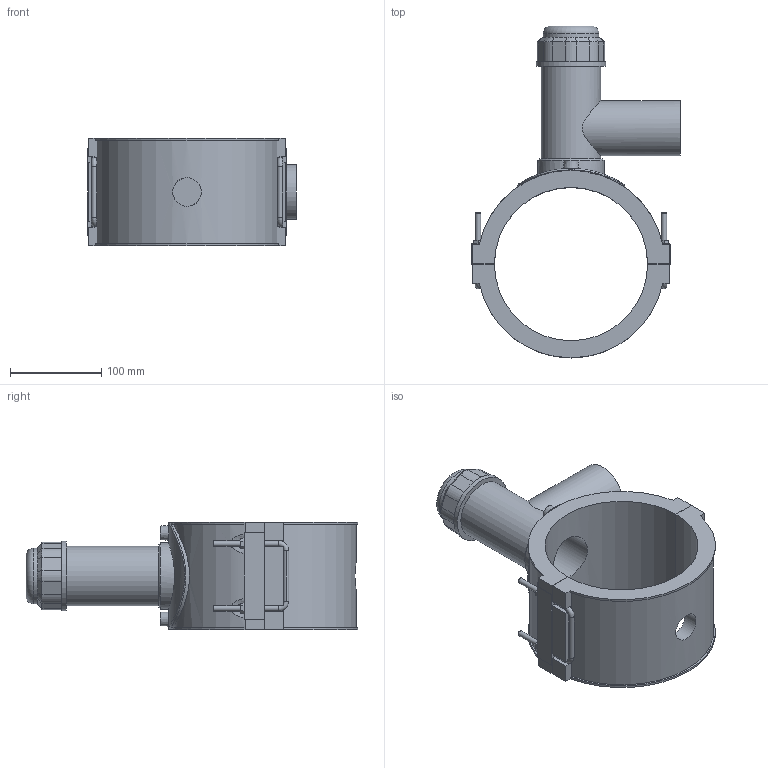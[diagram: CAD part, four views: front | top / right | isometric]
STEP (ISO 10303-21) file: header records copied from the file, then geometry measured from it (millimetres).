
FILE_DESCRIPTION(/* description */ ('PLASSON TAPPING SADDLE 6''''IPS x 2''''IPS'),/* implementation_level */ '2;1');
FILE_NAME(/* name */ 'C:\Dropbox\KIMPROJECTS-Inventor 2019\99-16-3568-Processing Inch\ASTM ElectroFusion 2021\5963B\5963BB03060020.ipt.stp',/* time_stamp */ '2021-08-30T09:55:39+03:00',/* author */ ('KIM'),/* organization */ (''),/* preprocessor_version */ 'ST-DEVELOPER v17.2',/* originating_system */ 'Autodesk Inventor 2019',/* authorisation */ '');
FILE_SCHEMA (('AUTOMOTIVE_DESIGN { 1 0 10303 214 3 1 1 }'));
Length unit declared in the file: millimetre
Products named in the file (1): 5963BB03060020
Bounding box: 228.84 x 363.85 x 118.11 mm (x, y, z)
Volume: 1614494.4 mm3; surface area: 275430.3 mm2
Topology: 1 solids, 1 shells, 198 faces, 533 edges, 350 vertices
Faces by surface type: plane 120, cylinder 53, cone 15, torus 5, bspline 5
Full cylindrical faces by diameter (mm): 4 x2, 6 x7, 10 x2, 31.36 x1, 48.08 x1, 53.508 x1, 60.1 x1, 61.152 x1, 64.974 x1, 72.618 x1, 76.44 x1, 117.6 x1
Entity records: 7524 total; most frequent: CARTESIAN_POINT 2403, ORIENTED_EDGE 1088, DIRECTION 1024, EDGE_CURVE 544, VERTEX_POINT 350, AXIS2_PLACEMENT_3D 346, LINE 332, VECTOR 332
